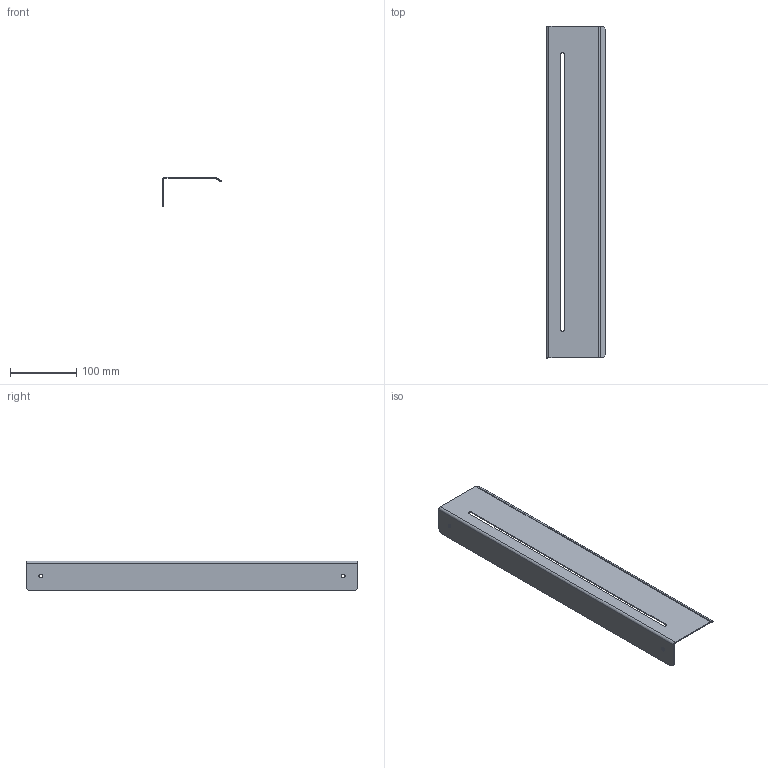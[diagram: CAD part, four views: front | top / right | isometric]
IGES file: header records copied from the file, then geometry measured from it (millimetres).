
Start section: IGES file generated by C3D Converter 1.5 translator by C3D Labs., translator version IGESOUT-5.1.
Global section: file name: D:\×åðòåæè èçäåëèé Âàííà 2023\Ïîëêè Simple Íîâûå\3D\×åðòåæè 22.07.2023\3D\S²MPLE_2_500.igs; preprocessor: 1.0; author: a.kalenyk83@gmail.com; organization: unknown; date: -17770622:111931; units: millimetre
Bounding box: 88.5 x 500 x 45 mm (x, y, z)
Volume: 95835.2 mm3; surface area: 130981.3 mm2
Topology: 1 solids, 1 shells, 34 faces, 80 edges, 48 vertices
Faces by surface type: bspline 20, revolution 14
